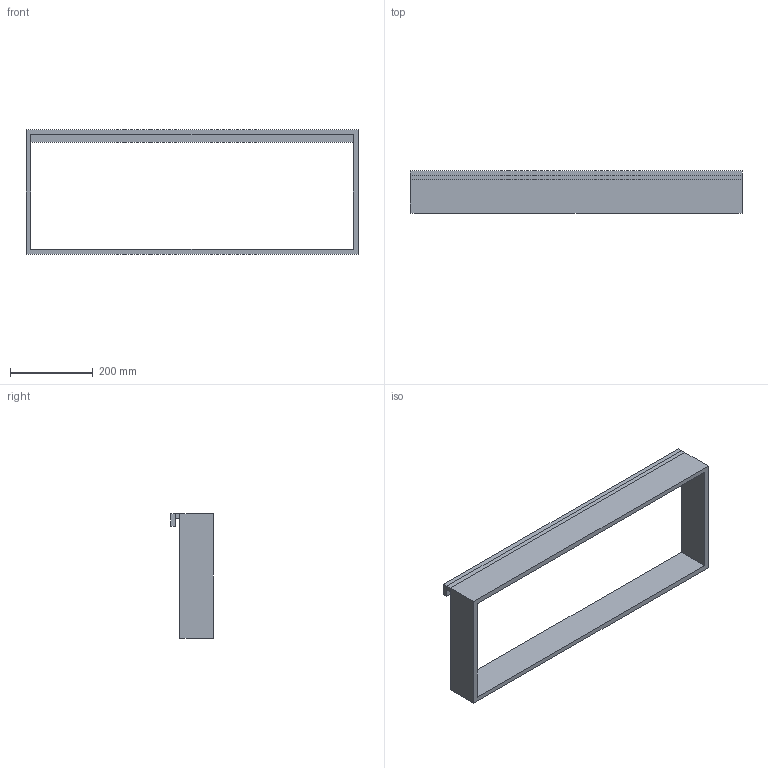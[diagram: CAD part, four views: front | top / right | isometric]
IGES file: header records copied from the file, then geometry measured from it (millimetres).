
Global section: file name: Y:\X DANIELE\SITO MOMA\SCHEDE TECNICHE + 2D + 3D\CONTAINER OPEN\3D\MOMA DESIGN_ACCESSORI_CONTAINER OPEN.igs; native system: Rhinoceros ( Feb 23 2021 ); preprocessor: Trout Lake IGES 012 Feb 23 2021; date: 250305.075420; units: millimetre
Bounding box: 800.06 x 102 x 300 mm (x, y, z)
Surface area: 460920.1 mm2 (no closed solid volume)
Topology: 0 solids, 0 shells, 20 faces, 88 edges, 88 vertices
Faces by surface type: bspline 20
